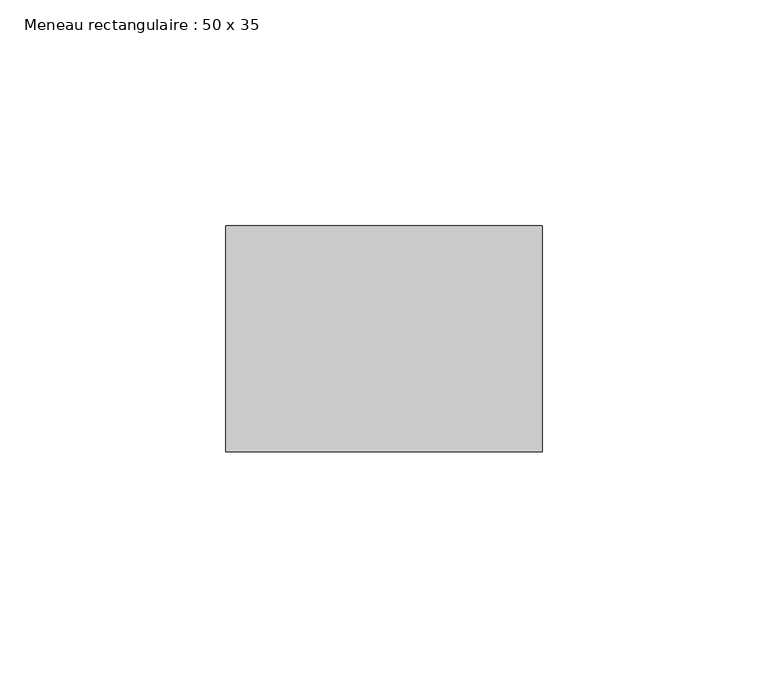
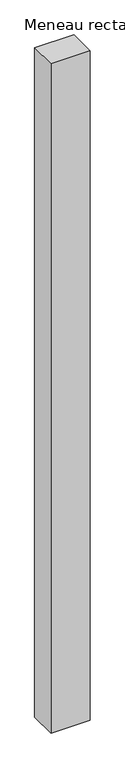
"""IFC4 building model written with IfcOpenShell, lengths in millimetres: member geometry, Meneau rectangulaire : 50 x 35."""

from ifc_helpers import new_model, si_unit, frame, origin, place, context, project, spatial, polyline, outline, extrude, source, transform, mapped, element, save


def meneau_rectangulaire_50_x_35_5bbc80f3(model_context):
    return source(origin(), model_context, "Body", "SweptSolid", [
        extrude(outline(polyline([(0.0, 0.0), (0.0, -50.0), (-70.0, -50.0), (-70.0, 0.0), (0.0, 0.0)])), frame((0.0, 0.0, -1262.9820087), z_axis=(0.0, 0.0, 1.0), x_axis=(1.0, 0.0, 0.0)), (0.0, 0.0, 1.0), 1262.9820087),
    ])


if __name__ == "__main__":
    model = new_model("IFC4")
    model_context = context("Model", 3, world=origin())
    ifc_project = project(units=[si_unit("LENGTHUNIT", "METRE", prefix="MILLI")], contexts=[model_context])
    site = spatial("IfcSite", under=ifc_project)
    building = spatial("IfcBuilding", under=site)
    placement = place(None, origin())
    meneau_rectangulaire_50_x_35_shape = meneau_rectangulaire_50_x_35_5bbc80f3(model_context)
    element("IfcMember", 1, ObjectType="Meneau rectangulaire : 50 x 35", at=placement, inside=building, context=model_context, shape_type="MappedRepresentation", body=[
        mapped(meneau_rectangulaire_50_x_35_shape, transform((0.0, 0.0, 0.0), x_axis=(1.0, 0.0, 0.0), y_axis=(0.0, 1.0, 0.0), z_axis=(0.0, 0.0, 1.0))),
    ])
    save(model, "model.ifc")
